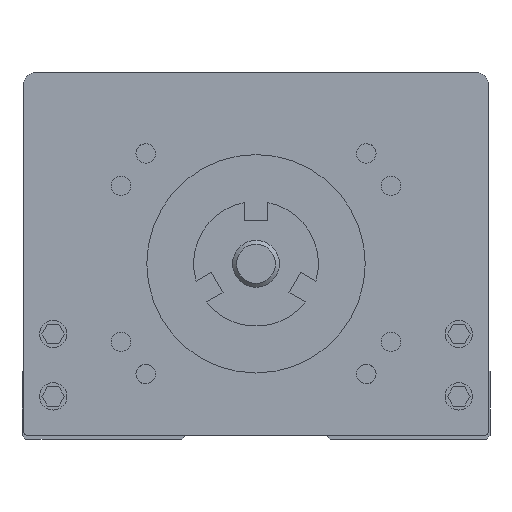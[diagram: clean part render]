
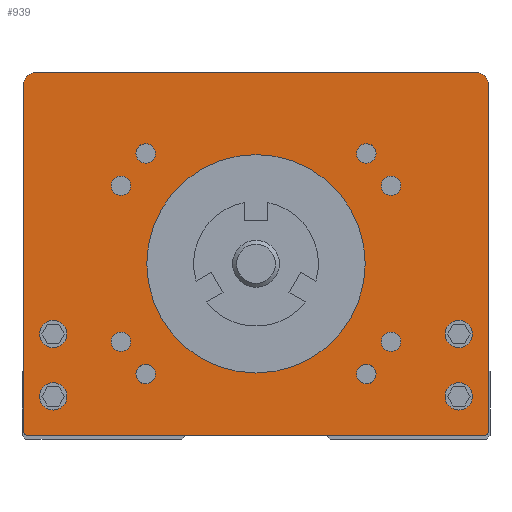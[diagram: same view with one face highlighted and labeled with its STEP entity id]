
A CAD part, front view. The second image highlights one B-rep face of the part: STEP entity #939.
In plain terms, the highlighted planar face has unit normal (0, -1, 0).
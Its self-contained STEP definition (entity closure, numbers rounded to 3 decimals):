
#632=FACE_BOUND('',#2164,.T.);
#633=FACE_BOUND('',#2165,.T.);
#634=FACE_BOUND('',#2166,.T.);
#635=FACE_BOUND('',#2167,.T.);
#636=FACE_BOUND('',#2168,.T.);
#637=FACE_BOUND('',#2169,.T.);
#638=FACE_BOUND('',#2170,.T.);
#639=FACE_BOUND('',#2171,.T.);
#640=FACE_BOUND('',#2172,.T.);
#641=FACE_BOUND('',#2173,.T.);
#642=FACE_BOUND('',#2174,.T.);
#643=FACE_BOUND('',#2175,.T.);
#644=FACE_BOUND('',#2176,.T.);
#645=FACE_BOUND('',#2177,.T.);
#939=ADVANCED_FACE('',(#632,#633,#634,#635,#636,#637,#638,#639,#640,#641,
#642,#643,#644,#645),#1424,.F.);
#1424=PLANE('',#9015);
#2164=EDGE_LOOP('',(#3384));
#2165=EDGE_LOOP('',(#3385));
#2166=EDGE_LOOP('',(#3386));
#2167=EDGE_LOOP('',(#3387));
#2168=EDGE_LOOP('',(#3388));
#2169=EDGE_LOOP('',(#3389));
#2170=EDGE_LOOP('',(#3390));
#2171=EDGE_LOOP('',(#3391));
#2172=EDGE_LOOP('',(#3392,#3393,#3394,#3395,#3396,#3397,#3398,#3399));
#2173=EDGE_LOOP('',(#3400));
#2174=EDGE_LOOP('',(#3401));
#2175=EDGE_LOOP('',(#3402));
#2176=EDGE_LOOP('',(#3403));
#2177=EDGE_LOOP('',(#3404));
#2819=CIRCLE('',#8998,1.25);
#2820=CIRCLE('',#8999,1.25);
#2821=CIRCLE('',#9000,1.25);
#2822=CIRCLE('',#9001,1.25);
#2823=CIRCLE('',#9002,1.25);
#2824=CIRCLE('',#9003,1.25);
#2825=CIRCLE('',#9004,1.25);
#2826=CIRCLE('',#9005,1.25);
#2827=CIRCLE('',#9006,0.5);
#2828=CIRCLE('',#9007,1.5);
#2829=CIRCLE('',#9008,1.5);
#2830=CIRCLE('',#9009,0.5);
#2831=CIRCLE('',#9010,1.75);
#2832=CIRCLE('',#9011,1.75);
#2833=CIRCLE('',#9012,1.75);
#2834=CIRCLE('',#9013,1.75);
#2835=CIRCLE('',#9014,14.);
#3384=ORIENTED_EDGE('',*,*,#6361,.F.);
#3385=ORIENTED_EDGE('',*,*,#6362,.F.);
#3386=ORIENTED_EDGE('',*,*,#6363,.F.);
#3387=ORIENTED_EDGE('',*,*,#6364,.F.);
#3388=ORIENTED_EDGE('',*,*,#6365,.F.);
#3389=ORIENTED_EDGE('',*,*,#6366,.F.);
#3390=ORIENTED_EDGE('',*,*,#6367,.F.);
#3391=ORIENTED_EDGE('',*,*,#6368,.F.);
#3392=ORIENTED_EDGE('',*,*,#6185,.T.);
#3393=ORIENTED_EDGE('',*,*,#6369,.T.);
#3394=ORIENTED_EDGE('',*,*,#6340,.T.);
#3395=ORIENTED_EDGE('',*,*,#6370,.T.);
#3396=ORIENTED_EDGE('',*,*,#6371,.F.);
#3397=ORIENTED_EDGE('',*,*,#6372,.T.);
#3398=ORIENTED_EDGE('',*,*,#6373,.T.);
#3399=ORIENTED_EDGE('',*,*,#6374,.T.);
#3400=ORIENTED_EDGE('',*,*,#6375,.F.);
#3401=ORIENTED_EDGE('',*,*,#6376,.F.);
#3402=ORIENTED_EDGE('',*,*,#6377,.F.);
#3403=ORIENTED_EDGE('',*,*,#6378,.F.);
#3404=ORIENTED_EDGE('',*,*,#6379,.F.);
#5400=VERTEX_POINT('',#12272);
#5401=VERTEX_POINT('',#12274);
#5517=VERTEX_POINT('',#12634);
#5518=VERTEX_POINT('',#12636);
#5538=VERTEX_POINT('',#12682);
#5539=VERTEX_POINT('',#12684);
#5540=VERTEX_POINT('',#12686);
#5541=VERTEX_POINT('',#12688);
#5542=VERTEX_POINT('',#12690);
#5543=VERTEX_POINT('',#12692);
#5544=VERTEX_POINT('',#12694);
#5545=VERTEX_POINT('',#12696);
#5546=VERTEX_POINT('',#12699);
#5547=VERTEX_POINT('',#12701);
#5548=VERTEX_POINT('',#12703);
#5549=VERTEX_POINT('',#12705);
#5550=VERTEX_POINT('',#12708);
#5551=VERTEX_POINT('',#12710);
#5552=VERTEX_POINT('',#12712);
#5553=VERTEX_POINT('',#12714);
#5554=VERTEX_POINT('',#12716);
#6185=EDGE_CURVE('',#5401,#5400,#7327,.T.);
#6340=EDGE_CURVE('',#5518,#5517,#7420,.T.);
#6361=EDGE_CURVE('',#5538,#5538,#2819,.T.);
#6362=EDGE_CURVE('',#5539,#5539,#2820,.T.);
#6363=EDGE_CURVE('',#5540,#5540,#2821,.T.);
#6364=EDGE_CURVE('',#5541,#5541,#2822,.T.);
#6365=EDGE_CURVE('',#5542,#5542,#2823,.T.);
#6366=EDGE_CURVE('',#5543,#5543,#2824,.T.);
#6367=EDGE_CURVE('',#5544,#5544,#2825,.T.);
#6368=EDGE_CURVE('',#5545,#5545,#2826,.T.);
#6369=EDGE_CURVE('',#5400,#5518,#2827,.T.);
#6370=EDGE_CURVE('',#5517,#5546,#2828,.T.);
#6371=EDGE_CURVE('',#5547,#5546,#7433,.T.);
#6372=EDGE_CURVE('',#5547,#5548,#2829,.T.);
#6373=EDGE_CURVE('',#5548,#5549,#7434,.T.);
#6374=EDGE_CURVE('',#5549,#5401,#2830,.T.);
#6375=EDGE_CURVE('',#5550,#5550,#2831,.T.);
#6376=EDGE_CURVE('',#5551,#5551,#2832,.T.);
#6377=EDGE_CURVE('',#5552,#5552,#2833,.T.);
#6378=EDGE_CURVE('',#5553,#5553,#2834,.T.);
#6379=EDGE_CURVE('',#5554,#5554,#2835,.T.);
#7327=LINE('',#12273,#8111);
#7420=LINE('',#12635,#8204);
#7433=LINE('',#12700,#8217);
#7434=LINE('',#12704,#8218);
#8111=VECTOR('',#9758,1.);
#8204=VECTOR('',#10059,1.);
#8217=VECTOR('',#10118,1.);
#8218=VECTOR('',#10121,1.);
#8998=AXIS2_PLACEMENT_3D('',#12681,#10098,#10099);
#8999=AXIS2_PLACEMENT_3D('',#12683,#10100,#10101);
#9000=AXIS2_PLACEMENT_3D('',#12685,#10102,#10103);
#9001=AXIS2_PLACEMENT_3D('',#12687,#10104,#10105);
#9002=AXIS2_PLACEMENT_3D('',#12689,#10106,#10107);
#9003=AXIS2_PLACEMENT_3D('',#12691,#10108,#10109);
#9004=AXIS2_PLACEMENT_3D('',#12693,#10110,#10111);
#9005=AXIS2_PLACEMENT_3D('',#12695,#10112,#10113);
#9006=AXIS2_PLACEMENT_3D('',#12697,#10114,#10115);
#9007=AXIS2_PLACEMENT_3D('',#12698,#10116,#10117);
#9008=AXIS2_PLACEMENT_3D('',#12702,#10119,#10120);
#9009=AXIS2_PLACEMENT_3D('',#12706,#10122,#10123);
#9010=AXIS2_PLACEMENT_3D('',#12707,#10124,#10125);
#9011=AXIS2_PLACEMENT_3D('',#12709,#10126,#10127);
#9012=AXIS2_PLACEMENT_3D('',#12711,#10128,#10129);
#9013=AXIS2_PLACEMENT_3D('',#12713,#10130,#10131);
#9014=AXIS2_PLACEMENT_3D('',#12715,#10132,#10133);
#9015=AXIS2_PLACEMENT_3D('',#12717,#10134,#10135);
#9758=DIRECTION('',(1.,0.,0.));
#10059=DIRECTION('',(0.,0.,1.));
#10098=DIRECTION('',(0.,-1.,0.));
#10099=DIRECTION('',(0.,0.,1.));
#10100=DIRECTION('',(0.,-1.,0.));
#10101=DIRECTION('',(0.,0.,1.));
#10102=DIRECTION('',(0.,-1.,0.));
#10103=DIRECTION('',(0.,0.,1.));
#10104=DIRECTION('',(0.,-1.,0.));
#10105=DIRECTION('',(0.,0.,1.));
#10106=DIRECTION('',(0.,-1.,0.));
#10107=DIRECTION('',(0.,0.,1.));
#10108=DIRECTION('',(0.,-1.,0.));
#10109=DIRECTION('',(0.,0.,1.));
#10110=DIRECTION('',(0.,-1.,0.));
#10111=DIRECTION('',(0.,0.,1.));
#10112=DIRECTION('',(0.,-1.,0.));
#10113=DIRECTION('',(0.,0.,1.));
#10114=DIRECTION('',(0.,-1.,0.));
#10115=DIRECTION('',(0.,0.,1.));
#10116=DIRECTION('',(0.,-1.,0.));
#10117=DIRECTION('',(1.,0.,0.));
#10118=DIRECTION('',(1.,0.,0.));
#10119=DIRECTION('',(0.,-1.,0.));
#10120=DIRECTION('',(0.,0.,1.));
#10121=DIRECTION('',(0.,0.,-1.));
#10122=DIRECTION('',(0.,-1.,0.));
#10123=DIRECTION('',(0.,0.,1.));
#10124=DIRECTION('',(0.,-1.,0.));
#10125=DIRECTION('',(-1.,0.,0.));
#10126=DIRECTION('',(0.,-1.,0.));
#10127=DIRECTION('',(-1.,0.,0.));
#10128=DIRECTION('',(0.,-1.,0.));
#10129=DIRECTION('',(-1.,0.,0.));
#10130=DIRECTION('',(0.,-1.,0.));
#10131=DIRECTION('',(-1.,0.,0.));
#10132=DIRECTION('',(0.,-1.,0.));
#10133=DIRECTION('',(-1.,0.,0.));
#10134=DIRECTION('',(0.,1.,0.));
#10135=DIRECTION('',(1.,0.,0.));
#12272=CARTESIAN_POINT('',(29.3,50.,0.));
#12273=CARTESIAN_POINT('',(-28.3,50.,0.));
#12274=CARTESIAN_POINT('',(-29.3,50.,0.));
#12634=CARTESIAN_POINT('',(29.8,50.,45.));
#12635=CARTESIAN_POINT('',(29.8,50.,1.5));
#12636=CARTESIAN_POINT('',(29.8,50.,0.5));
#12681=CARTESIAN_POINT('',(-14.142,50.,36.142));
#12682=CARTESIAN_POINT('',(-14.142,50.,37.392));
#12683=CARTESIAN_POINT('',(14.142,50.,36.142));
#12684=CARTESIAN_POINT('',(14.142,50.,37.392));
#12685=CARTESIAN_POINT('',(14.142,50.,7.858));
#12686=CARTESIAN_POINT('',(14.142,50.,9.108));
#12687=CARTESIAN_POINT('',(-14.142,50.,7.858));
#12688=CARTESIAN_POINT('',(-14.142,50.,9.108));
#12689=CARTESIAN_POINT('',(-17.321,50.,32.));
#12690=CARTESIAN_POINT('',(-17.321,50.,33.25));
#12691=CARTESIAN_POINT('',(17.321,50.,32.));
#12692=CARTESIAN_POINT('',(17.321,50.,33.25));
#12693=CARTESIAN_POINT('',(17.321,50.,12.));
#12694=CARTESIAN_POINT('',(17.321,50.,13.25));
#12695=CARTESIAN_POINT('',(-17.321,50.,12.));
#12696=CARTESIAN_POINT('',(-17.321,50.,13.25));
#12697=CARTESIAN_POINT('',(29.3,50.,0.5));
#12698=CARTESIAN_POINT('',(28.3,50.,45.));
#12699=CARTESIAN_POINT('',(28.3,50.,46.5));
#12700=CARTESIAN_POINT('',(-28.3,50.,46.5));
#12701=CARTESIAN_POINT('',(-28.3,50.,46.5));
#12702=CARTESIAN_POINT('',(-28.3,50.,45.));
#12703=CARTESIAN_POINT('',(-29.8,50.,45.));
#12704=CARTESIAN_POINT('',(-29.8,50.,42.5));
#12705=CARTESIAN_POINT('',(-29.8,50.,0.5));
#12706=CARTESIAN_POINT('',(-29.3,50.,0.5));
#12707=CARTESIAN_POINT('',(-26.,50.,13.));
#12708=CARTESIAN_POINT('',(-27.75,50.,13.));
#12709=CARTESIAN_POINT('',(-26.,50.,5.));
#12710=CARTESIAN_POINT('',(-27.75,50.,5.));
#12711=CARTESIAN_POINT('',(26.,50.,5.));
#12712=CARTESIAN_POINT('',(24.25,50.,5.));
#12713=CARTESIAN_POINT('',(26.,50.,13.));
#12714=CARTESIAN_POINT('',(24.25,50.,13.));
#12715=CARTESIAN_POINT('',(0.,50.,22.));
#12716=CARTESIAN_POINT('',(-14.,50.,22.));
#12717=CARTESIAN_POINT('',(0.,50.,-28.5));
